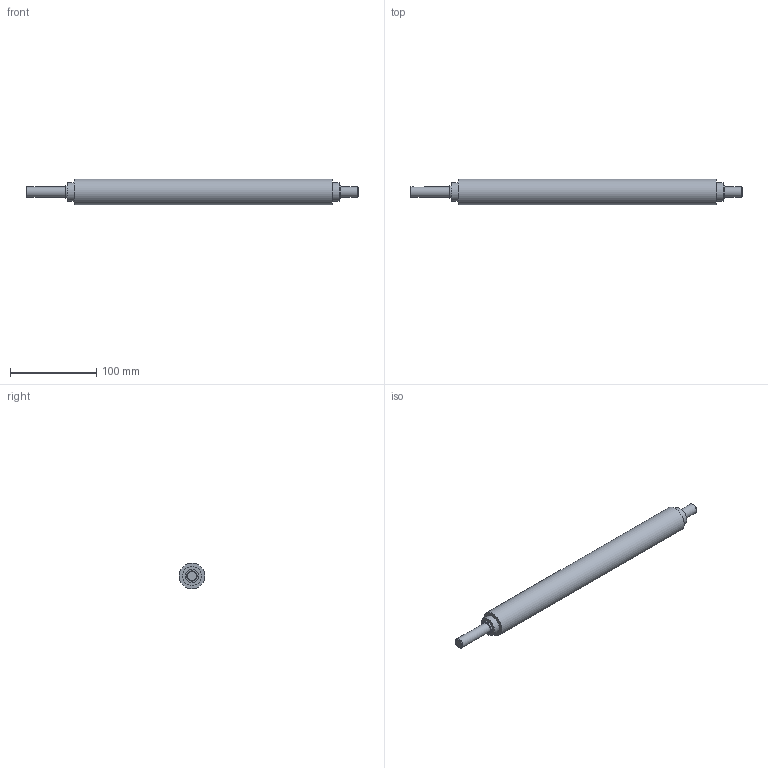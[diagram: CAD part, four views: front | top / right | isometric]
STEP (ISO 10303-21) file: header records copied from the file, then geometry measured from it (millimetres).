
FILE_DESCRIPTION(/* description */ ('ROLLER B'),/* implementation_level */ '2;1');
FILE_NAME(/* name */ 'C:\Users\Apardo\Documents\Proyectos\Dietrich\Proyecto 1\PLATE ROLLING MACHINE\STEP\1.10 rollerB.stp',/* time_stamp */ '2020-11-03T20:35:51-04:00',/* author */ ('Apardo'),/* organization */ ('14'),/* preprocessor_version */ 'ST-DEVELOPER v18',/* originating_system */ 'Autodesk Inventor 2020',/* authorisation */ '');
FILE_SCHEMA (('AUTOMOTIVE_DESIGN { 1 0 10303 214 3 1 1 }'));
Length unit declared in the file: millimetre
Products named in the file (1): rollerB
Bounding box: 386 x 30 x 30 mm (x, y, z)
Volume: 226139.8 mm3; surface area: 33499.6 mm2
Topology: 1 solids, 1 shells, 22 faces, 51 edges, 38 vertices
Faces by surface type: plane 11, cylinder 9, cone 2
Full cylindrical faces by diameter (mm): 12 x2, 15 x2, 22 x2, 30 x1
Entity records: 734 total; most frequent: CARTESIAN_POINT 146, DIRECTION 127, ORIENTED_EDGE 102, AXIS2_PLACEMENT_3D 55, EDGE_CURVE 51, VERTEX_POINT 38, CIRCLE 32, EDGE_LOOP 29
